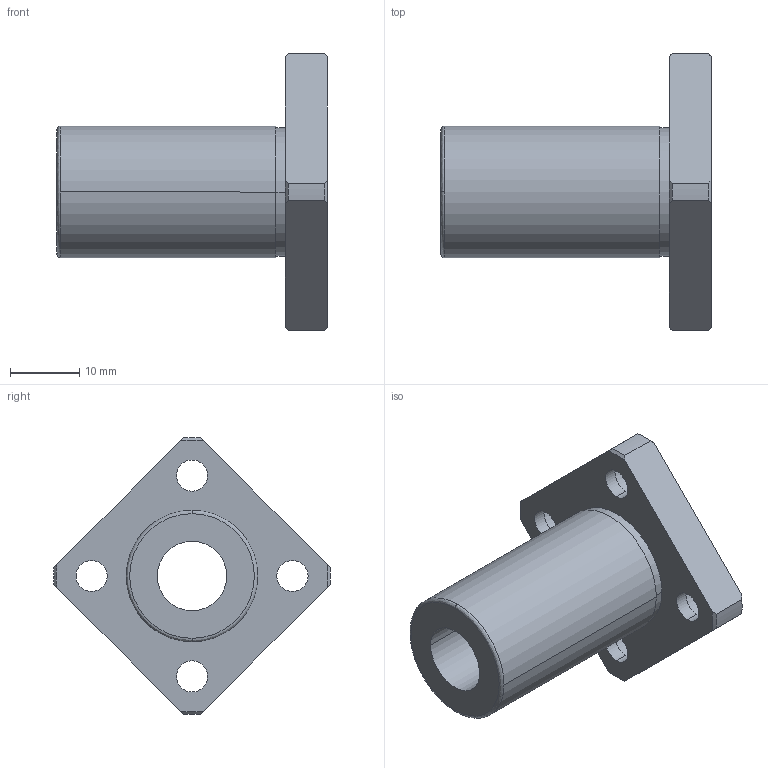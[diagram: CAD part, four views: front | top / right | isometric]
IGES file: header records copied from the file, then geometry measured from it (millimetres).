
Start section: 3D InterOp IGES (Version 21 0 1), Spatial Corp. Copyright (c) 1999-2007.
Global section: file name: NFES-10VM.igs; native system: Spatial Corp.; preprocessor: 3D InterOp GENERIC/IGES 3.0; author: Noname; organization: Noname; date: 20220308.101808; units: millimetre
Bounding box: 39 x 40 x 39.99 mm (x, y, z)
Surface area: 5896.9 mm2 (no closed solid volume)
Topology: 0 solids, 0 shells, 51 faces, 254 edges, 254 vertices
Faces by surface type: revolution 39, extrusion 12
